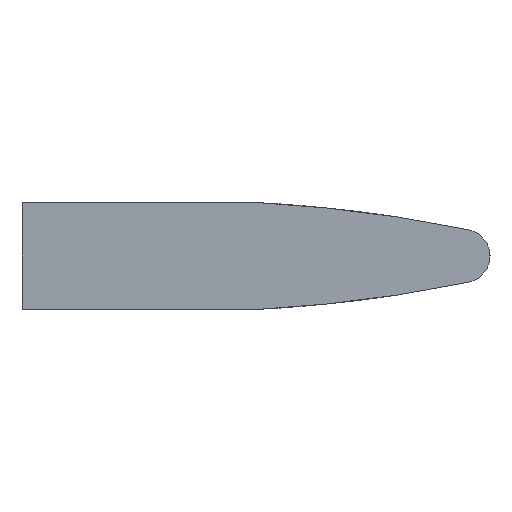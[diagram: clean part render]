
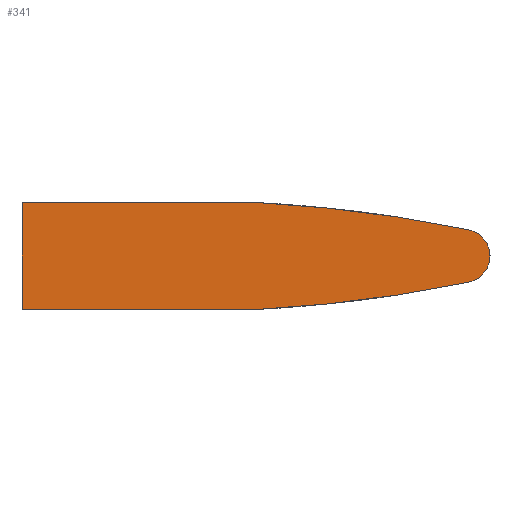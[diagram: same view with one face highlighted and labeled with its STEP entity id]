
A CAD part, left-side view. The second image highlights one B-rep face of the part: STEP entity #341.
In plain terms, the highlighted planar face has unit normal (-1, 0, 0).
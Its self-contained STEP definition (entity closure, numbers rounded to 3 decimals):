
#165 = VERTEX_POINT( '', #444 );
#173 = EDGE_CURVE( '', #263, #399, #453, .T. );
#219 = VERTEX_POINT( '', #504 );
#241 = EDGE_CURVE( '', #315, #165, #527, .T. );
#263 = VERTEX_POINT( '', #552 );
#277 = VERTEX_POINT( '', #566 );
#283 = EDGE_CURVE( '', #295, #263, #572, .T. );
#295 = VERTEX_POINT( '', #585 );
#315 = VERTEX_POINT( '', #606 );
#341 = ADVANCED_FACE( '', ( #632 ), #633, .F. );
#343 = EDGE_CURVE( '', #219, #277, #635, .T. );
#355 = EDGE_CURVE( '', #277, #315, #647, .T. );
#369 = EDGE_CURVE( '', #399, #219, #664, .T. );
#373 = EDGE_CURVE( '', #165, #295, #668, .T. );
#399 = VERTEX_POINT( '', #698 );
#444 = CARTESIAN_POINT( '', ( -26.5, -17.5, 4. ) );
#453 = CIRCLE( '', #746, 2. );
#504 = CARTESIAN_POINT( '', ( -26.5, -17.5, -4. ) );
#527 = LINE( '', #860, #861 );
#552 = CARTESIAN_POINT( '', ( -26.5, -35., 0. ) );
#566 = CARTESIAN_POINT( '', ( -26.5, 0., -4. ) );
#572 = CIRCLE( '', #919, 2. );
#585 = CARTESIAN_POINT( '', ( -26.5, -33.402, 1.963 ) );
#606 = CARTESIAN_POINT( '', ( -26.5, 0., 4. ) );
#632 = FACE_OUTER_BOUND( '', #1019, .T. );
#633 = PLANE( '', #1020 );
#635 = LINE( '', #1023, #1024 );
#647 = LINE( '', #1041, #1042 );
#664 = CIRCLE( '', #1079, 106.818 );
#668 = CIRCLE( '', #1086, 106.818 );
#698 = CARTESIAN_POINT( '', ( -26.5, -33.402, -1.963 ) );
#746 = AXIS2_PLACEMENT_3D( '', #1214, #1215, #1216 );
#860 = CARTESIAN_POINT( '', ( -26.5, 0., 4. ) );
#861 = VECTOR( '', #1294, 1. );
#919 = AXIS2_PLACEMENT_3D( '', #1333, #1334, #1335 );
#1019 = EDGE_LOOP( '', ( #1387, #1388, #1389, #1390, #1391, #1392, #1393 ) );
#1020 = AXIS2_PLACEMENT_3D( '', #1394, #1395, #1396 );
#1023 = CARTESIAN_POINT( '', ( -26.5, -17.5, -4. ) );
#1024 = VECTOR( '', #1397, 1. );
#1041 = CARTESIAN_POINT( '', ( -26.5, 0., -4. ) );
#1042 = VECTOR( '', #1405, 1. );
#1079 = AXIS2_PLACEMENT_3D( '', #1422, #1423, #1424 );
#1086 = AXIS2_PLACEMENT_3D( '', #1426, #1427, #1428 );
#1214 = CARTESIAN_POINT( '', ( -26.5, -33., -0.004 ) );
#1215 = DIRECTION( '', ( 1., 0., 0. ) );
#1216 = DIRECTION( '', ( 0., -1., 0.002 ) );
#1294 = DIRECTION( '', ( 0., -1., 0. ) );
#1333 = CARTESIAN_POINT( '', ( -26.5, -33., 0.004 ) );
#1334 = DIRECTION( '', ( 1., 0., 0. ) );
#1335 = DIRECTION( '', ( 0., -0.201, 0.98 ) );
#1387 = ORIENTED_EDGE( '', *, *, #283, .F. );
#1388 = ORIENTED_EDGE( '', *, *, #373, .F. );
#1389 = ORIENTED_EDGE( '', *, *, #241, .F. );
#1390 = ORIENTED_EDGE( '', *, *, #355, .F. );
#1391 = ORIENTED_EDGE( '', *, *, #343, .F. );
#1392 = ORIENTED_EDGE( '', *, *, #369, .F. );
#1393 = ORIENTED_EDGE( '', *, *, #173, .F. );
#1394 = CARTESIAN_POINT( '', ( -26.5, 0., 0. ) );
#1395 = DIRECTION( '', ( 1., 0., 0. ) );
#1396 = DIRECTION( '', ( 0., 0., -1. ) );
#1397 = DIRECTION( '', ( 0., 1., 0. ) );
#1405 = DIRECTION( '', ( 0., 0., 1. ) );
#1422 = CARTESIAN_POINT( '', ( -26.5, -11.918, 102.672 ) );
#1423 = DIRECTION( '', ( 1., 0., 0. ) );
#1424 = DIRECTION( '', ( 0., -0.201, -0.98 ) );
#1426 = CARTESIAN_POINT( '', ( -26.5, -11.918, -102.672 ) );
#1427 = DIRECTION( '', ( 1., 0., 0. ) );
#1428 = DIRECTION( '', ( 0., -0.052, 0.999 ) );
